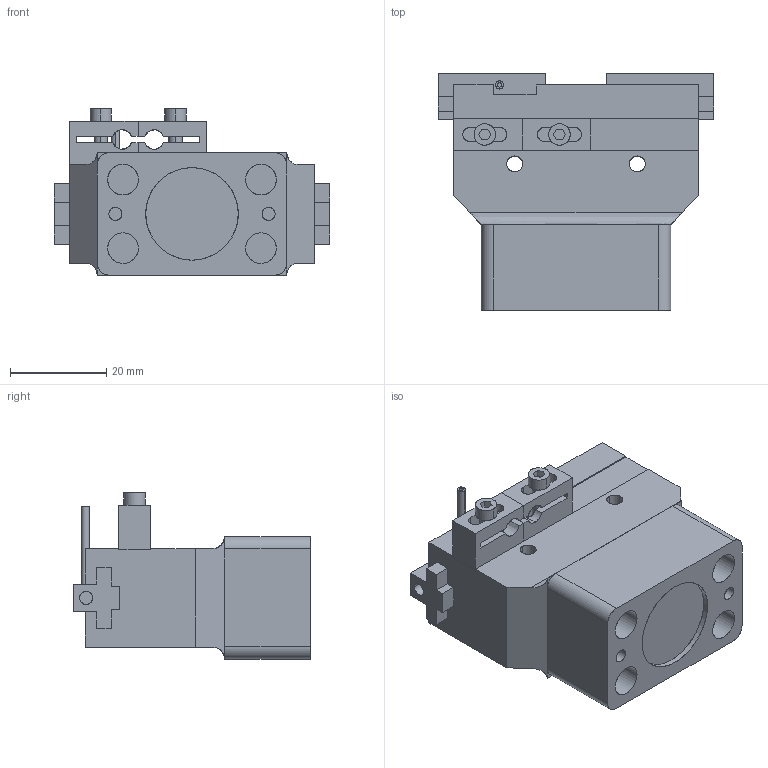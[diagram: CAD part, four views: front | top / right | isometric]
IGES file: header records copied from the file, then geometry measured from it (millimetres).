
Start section: SolidWorks IGES file using analytic representation for surfaces
Global section: file name: C:\Users\jmkuhnes\Pictures\PERSONAL\AGPT\AGPT-500\AGPT-500 OPEN in MM.IGS; native system: SolidWorks 2013; preprocessor: SolidWorks 2013; author: jmkuhnes; date: 141031.145230; units: millimetre
Bounding box: 57.15 x 49.12 x 34.48 mm (x, y, z)
Surface area: 16011 mm2 (no closed solid volume)
Topology: 0 solids, 0 shells, 242 faces, 3264 edges, 3264 vertices
Faces by surface type: bspline 158, revolution 84
